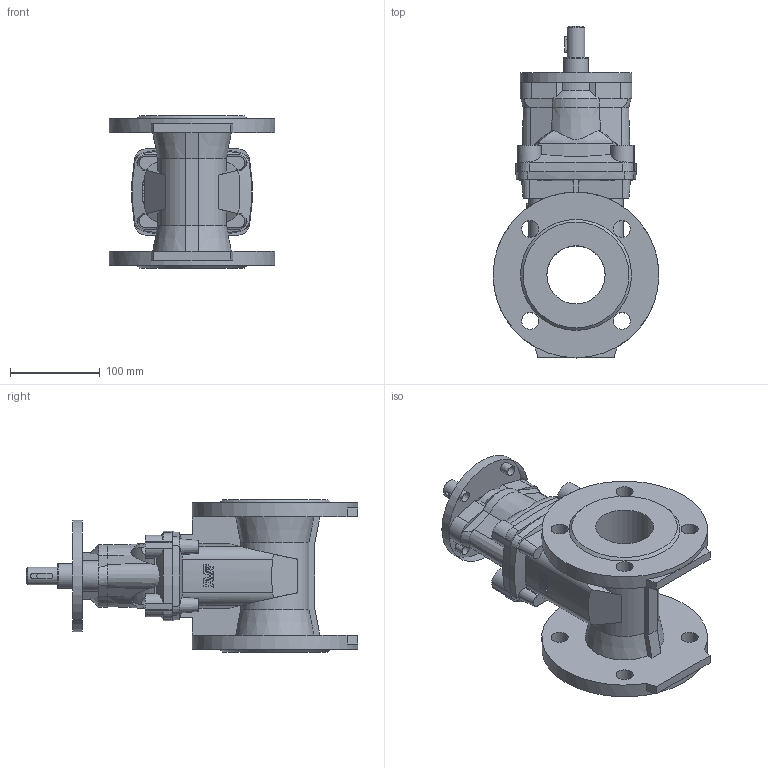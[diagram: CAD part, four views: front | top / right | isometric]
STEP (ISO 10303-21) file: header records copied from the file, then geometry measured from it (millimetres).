
FILE_DESCRIPTION (( 'STEP AP203' ), '1' );
FILE_NAME ('O_15_42_DN065_X1X_AA0.step', '2017-03-10T08:08:10', ( 'Windows User' ), ( 'AVK' ), 'SwSTEP 2.0', 'SolidWorks 2012', '' );
FILE_SCHEMA (( 'CONFIG_CONTROL_DESIGN' ));
Length unit declared in the file: millimetre
Products named in the file (1): O_15_42_DN065_X1X_AA0
Bounding box: 185 x 370.5 x 170 mm (x, y, z)
Volume: 2617876.9 mm3; surface area: 288539.8 mm2
Topology: 1 solids, 1 shells, 283 faces, 782 edges, 510 vertices
Faces by surface type: plane 102, cylinder 63, cone 58, bspline 54, torus 6
Full cylindrical faces by diameter (mm): 11.5 x4, 19 x8, 20 x1, 28 x1, 65 x1, 125 x1, 185 x2
Entity records: 10349 total; most frequent: CARTESIAN_POINT 3842, ORIENTED_EDGE 1490, DIRECTION 1086, EDGE_CURVE 745, VERTEX_POINT 495, AXIS2_PLACEMENT_3D 445, EDGE_LOOP 340, B_SPLINE_CURVE_WITH_KNOTS 312
